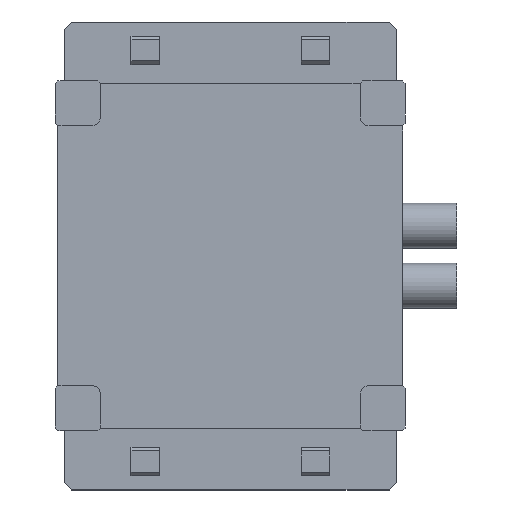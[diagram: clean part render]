
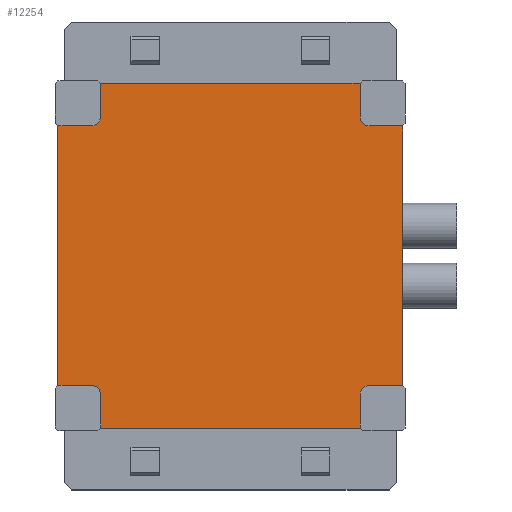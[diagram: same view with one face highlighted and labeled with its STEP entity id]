
A CAD part, top view. The second image highlights one B-rep face of the part: STEP entity #12254.
In plain terms, the highlighted planar face has unit normal (0, 0, 1).
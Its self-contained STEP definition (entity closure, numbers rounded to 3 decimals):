
#1315=PLANE('',#13181);
#1914=FACE_OUTER_BOUND('',#2742,.T.);
#2742=EDGE_LOOP('',(#11050,#11051,#11052,#11053,#11054,#11055,#11056,#11057,
#11058,#11059,#11060,#11061,#11062,#11063,#11064,#11065,#11066,#11067,#11068,
#11069,#11070,#11071,#11072,#11073));
#3889=LINE('',#19433,#5077);
#3901=LINE('',#19458,#5089);
#3921=LINE('',#19497,#5109);
#3929=LINE('',#19510,#5117);
#3937=LINE('',#19529,#5125);
#3942=LINE('',#19544,#5130);
#3947=LINE('',#19559,#5135);
#3952=LINE('',#19574,#5140);
#3958=LINE('',#19594,#5146);
#3959=LINE('',#19595,#5147);
#3960=LINE('',#19596,#5148);
#3961=LINE('',#19598,#5149);
#3962=LINE('',#19599,#5150);
#3963=LINE('',#19600,#5151);
#3964=LINE('',#19602,#5152);
#3965=LINE('',#19603,#5153);
#3966=LINE('',#19604,#5154);
#3967=LINE('',#19606,#5155);
#3968=LINE('',#19607,#5156);
#3969=LINE('',#19608,#5157);
#5077=VECTOR('',#15801,183.);
#5089=VECTOR('',#15815,183.);
#5109=VECTOR('',#15845,183.);
#5117=VECTOR('',#15855,183.);
#5125=VECTOR('',#15871,0.5);
#5130=VECTOR('',#15884,0.5);
#5135=VECTOR('',#15897,0.5);
#5140=VECTOR('',#15910,0.5);
#5146=VECTOR('',#15934,23.5);
#5147=VECTOR('',#15935,0.5);
#5148=VECTOR('',#15936,23.5);
#5149=VECTOR('',#15937,23.5);
#5150=VECTOR('',#15938,0.5);
#5151=VECTOR('',#15939,23.5);
#5152=VECTOR('',#15940,23.5);
#5153=VECTOR('',#15941,0.5);
#5154=VECTOR('',#15942,23.5);
#5155=VECTOR('',#15943,23.5);
#5156=VECTOR('',#15944,0.5);
#5157=VECTOR('',#15945,23.5);
#5588=CIRCLE('',#13158,6.);
#5590=CIRCLE('',#13162,6.);
#5592=CIRCLE('',#13166,6.);
#5594=CIRCLE('',#13170,6.);
#6552=VERTEX_POINT('',#19430);
#6553=VERTEX_POINT('',#19432);
#6564=VERTEX_POINT('',#19455);
#6565=VERTEX_POINT('',#19457);
#6578=VERTEX_POINT('',#19494);
#6579=VERTEX_POINT('',#19496);
#6582=VERTEX_POINT('',#19507);
#6583=VERTEX_POINT('',#19509);
#6585=VERTEX_POINT('',#19517);
#6586=VERTEX_POINT('',#19518);
#6590=VERTEX_POINT('',#19527);
#6591=VERTEX_POINT('',#19532);
#6592=VERTEX_POINT('',#19533);
#6596=VERTEX_POINT('',#19542);
#6597=VERTEX_POINT('',#19547);
#6598=VERTEX_POINT('',#19548);
#6602=VERTEX_POINT('',#19557);
#6603=VERTEX_POINT('',#19562);
#6604=VERTEX_POINT('',#19563);
#6608=VERTEX_POINT('',#19572);
#6613=VERTEX_POINT('',#19593);
#6614=VERTEX_POINT('',#19597);
#6615=VERTEX_POINT('',#19601);
#6616=VERTEX_POINT('',#19605);
#8069=EDGE_CURVE('',#6553,#6552,#3889,.T.);
#8081=EDGE_CURVE('',#6565,#6564,#3901,.T.);
#8101=EDGE_CURVE('',#6579,#6578,#3921,.T.);
#8109=EDGE_CURVE('',#6583,#6582,#3929,.T.);
#8114=EDGE_CURVE('',#6585,#6586,#5588,.T.);
#8119=EDGE_CURVE('',#6586,#6590,#3937,.T.);
#8121=EDGE_CURVE('',#6591,#6592,#5590,.T.);
#8126=EDGE_CURVE('',#6592,#6596,#3942,.T.);
#8128=EDGE_CURVE('',#6597,#6598,#5592,.T.);
#8133=EDGE_CURVE('',#6598,#6602,#3947,.T.);
#8135=EDGE_CURVE('',#6603,#6604,#5594,.T.);
#8140=EDGE_CURVE('',#6604,#6608,#3952,.T.);
#8150=EDGE_CURVE('',#6578,#6613,#3958,.T.);
#8151=EDGE_CURVE('',#6613,#6603,#3959,.T.);
#8152=EDGE_CURVE('',#6608,#6565,#3960,.T.);
#8153=EDGE_CURVE('',#6564,#6614,#3961,.T.);
#8154=EDGE_CURVE('',#6614,#6591,#3962,.T.);
#8155=EDGE_CURVE('',#6596,#6583,#3963,.T.);
#8156=EDGE_CURVE('',#6582,#6615,#3964,.T.);
#8157=EDGE_CURVE('',#6615,#6597,#3965,.T.);
#8158=EDGE_CURVE('',#6602,#6553,#3966,.T.);
#8159=EDGE_CURVE('',#6552,#6616,#3967,.T.);
#8160=EDGE_CURVE('',#6616,#6585,#3968,.T.);
#8161=EDGE_CURVE('',#6590,#6579,#3969,.T.);
#11050=ORIENTED_EDGE('',*,*,#8150,.T.);
#11051=ORIENTED_EDGE('',*,*,#8151,.T.);
#11052=ORIENTED_EDGE('',*,*,#8135,.T.);
#11053=ORIENTED_EDGE('',*,*,#8140,.T.);
#11054=ORIENTED_EDGE('',*,*,#8152,.T.);
#11055=ORIENTED_EDGE('',*,*,#8081,.T.);
#11056=ORIENTED_EDGE('',*,*,#8153,.T.);
#11057=ORIENTED_EDGE('',*,*,#8154,.T.);
#11058=ORIENTED_EDGE('',*,*,#8121,.T.);
#11059=ORIENTED_EDGE('',*,*,#8126,.T.);
#11060=ORIENTED_EDGE('',*,*,#8155,.T.);
#11061=ORIENTED_EDGE('',*,*,#8109,.T.);
#11062=ORIENTED_EDGE('',*,*,#8156,.T.);
#11063=ORIENTED_EDGE('',*,*,#8157,.T.);
#11064=ORIENTED_EDGE('',*,*,#8128,.T.);
#11065=ORIENTED_EDGE('',*,*,#8133,.T.);
#11066=ORIENTED_EDGE('',*,*,#8158,.T.);
#11067=ORIENTED_EDGE('',*,*,#8069,.T.);
#11068=ORIENTED_EDGE('',*,*,#8159,.T.);
#11069=ORIENTED_EDGE('',*,*,#8160,.T.);
#11070=ORIENTED_EDGE('',*,*,#8114,.T.);
#11071=ORIENTED_EDGE('',*,*,#8119,.T.);
#11072=ORIENTED_EDGE('',*,*,#8161,.T.);
#11073=ORIENTED_EDGE('',*,*,#8101,.T.);
#12254=ADVANCED_FACE('',(#1914),#1315,.T.);
#13158=AXIS2_PLACEMENT_3D('',#19519,#15862,#15863);
#13162=AXIS2_PLACEMENT_3D('',#19534,#15875,#15876);
#13166=AXIS2_PLACEMENT_3D('',#19549,#15888,#15889);
#13170=AXIS2_PLACEMENT_3D('',#19564,#15901,#15902);
#13181=AXIS2_PLACEMENT_3D('',#19592,#15932,#15933);
#15801=DIRECTION('',(0.,-1.,0.));
#15815=DIRECTION('',(0.,1.,0.));
#15845=DIRECTION('',(1.,0.,0.));
#15855=DIRECTION('',(-1.,0.,0.));
#15862=DIRECTION('center_axis',(0.,0.,
-1.));
#15863=DIRECTION('ref_axis',(-1.,0.,0.));
#15871=DIRECTION('',(0.,-1.,0.));
#15875=DIRECTION('center_axis',(0.,0.,
-1.));
#15876=DIRECTION('ref_axis',(1.,0.,0.));
#15884=DIRECTION('',(0.,1.,0.));
#15888=DIRECTION('center_axis',(0.,0.,
-1.));
#15889=DIRECTION('ref_axis',(0.,1.,0.));
#15897=DIRECTION('',(-1.,0.,0.));
#15901=DIRECTION('center_axis',(0.,0.,
-1.));
#15902=DIRECTION('ref_axis',(0.,1.,0.));
#15910=DIRECTION('',(1.,0.,0.));
#15932=DIRECTION('center_axis',(0.,0.,
1.));
#15933=DIRECTION('ref_axis',(1.,0.,0.));
#15934=DIRECTION('',(0.,1.,0.));
#15935=DIRECTION('',(0.,1.,0.));
#15936=DIRECTION('',(1.,0.,0.));
#15937=DIRECTION('',(-1.,0.,0.));
#15938=DIRECTION('',(-1.,0.,0.));
#15939=DIRECTION('',(0.,1.,0.));
#15940=DIRECTION('',(0.,-1.,0.));
#15941=DIRECTION('',(0.,-1.,0.));
#15942=DIRECTION('',(-1.,0.,0.));
#15943=DIRECTION('',(1.,0.,0.));
#15944=DIRECTION('',(1.,0.,0.));
#15945=DIRECTION('',(0.,-1.,0.));
#19430=CARTESIAN_POINT('',(-121.5,-91.5,96.05));
#19432=CARTESIAN_POINT('',(-121.5,91.5,96.05));
#19433=CARTESIAN_POINT('',(-121.5,-121.5,96.05));
#19455=CARTESIAN_POINT('',(121.5,91.5,96.05));
#19457=CARTESIAN_POINT('',(121.5,-91.5,96.05));
#19458=CARTESIAN_POINT('',(121.5,121.5,96.05));
#19494=CARTESIAN_POINT('',(91.5,-121.5,96.05));
#19496=CARTESIAN_POINT('',(-91.5,-121.5,96.05));
#19497=CARTESIAN_POINT('',(121.5,-121.5,96.05));
#19507=CARTESIAN_POINT('',(-91.5,121.5,96.05));
#19509=CARTESIAN_POINT('',(91.5,121.5,96.05));
#19510=CARTESIAN_POINT('',(-121.5,121.5,96.05));
#19517=CARTESIAN_POINT('',(-97.5,-91.5,96.05));
#19518=CARTESIAN_POINT('',(-91.5,-97.5,96.05));
#19519=CARTESIAN_POINT('Origin',(-97.5,-97.5,96.05));
#19527=CARTESIAN_POINT('',(-91.5,-98.,96.05));
#19529=CARTESIAN_POINT('',(-91.5,-48.75,96.05));
#19532=CARTESIAN_POINT('',(97.5,91.5,96.05));
#19533=CARTESIAN_POINT('',(91.5,97.5,96.05));
#19534=CARTESIAN_POINT('Origin',(97.5,97.5,96.05));
#19542=CARTESIAN_POINT('',(91.5,98.,96.05));
#19544=CARTESIAN_POINT('',(91.5,48.75,96.05));
#19547=CARTESIAN_POINT('',(-91.5,97.5,96.05));
#19548=CARTESIAN_POINT('',(-97.5,91.5,96.05));
#19549=CARTESIAN_POINT('Origin',(-97.5,97.5,96.05));
#19557=CARTESIAN_POINT('',(-98.,91.5,96.05));
#19559=CARTESIAN_POINT('',(-48.75,91.5,96.05));
#19562=CARTESIAN_POINT('',(91.5,-97.5,96.05));
#19563=CARTESIAN_POINT('',(97.5,-91.5,96.05));
#19564=CARTESIAN_POINT('Origin',(97.5,-97.5,96.05));
#19572=CARTESIAN_POINT('',(98.,-91.5,96.05));
#19574=CARTESIAN_POINT('',(48.75,-91.5,96.05));
#19592=CARTESIAN_POINT('Origin',(0.,0.,
96.05));
#19593=CARTESIAN_POINT('',(91.5,-98.,96.05));
#19594=CARTESIAN_POINT('',(91.5,-60.75,96.05));
#19595=CARTESIAN_POINT('',(91.5,-60.75,96.05));
#19596=CARTESIAN_POINT('',(48.75,-91.5,96.05));
#19597=CARTESIAN_POINT('',(98.,91.5,96.05));
#19598=CARTESIAN_POINT('',(60.75,91.5,96.05));
#19599=CARTESIAN_POINT('',(60.75,91.5,96.05));
#19600=CARTESIAN_POINT('',(91.5,48.75,96.05));
#19601=CARTESIAN_POINT('',(-91.5,98.,96.05));
#19602=CARTESIAN_POINT('',(-91.5,60.75,96.05));
#19603=CARTESIAN_POINT('',(-91.5,60.75,96.05));
#19604=CARTESIAN_POINT('',(-48.75,91.5,96.05));
#19605=CARTESIAN_POINT('',(-98.,-91.5,96.05));
#19606=CARTESIAN_POINT('',(-60.75,-91.5,96.05));
#19607=CARTESIAN_POINT('',(-60.75,-91.5,96.05));
#19608=CARTESIAN_POINT('',(-91.5,-48.75,96.05));
